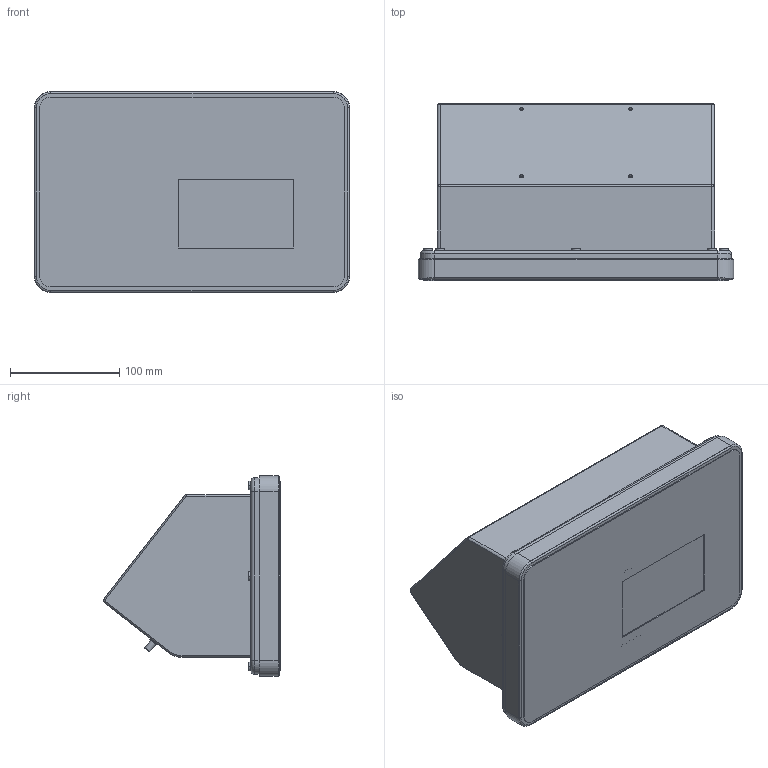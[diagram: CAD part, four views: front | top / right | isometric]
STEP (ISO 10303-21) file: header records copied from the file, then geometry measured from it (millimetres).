
FILE_DESCRIPTION((''),'2;1');
FILE_NAME('ASM000','2023-01-16T16:37:30',('zhang-250'),(''),'CREO PARAMETRIC BY PTC INC, 2022014','CREO PARAMETRIC BY PTC INC, 2022014','');
FILE_SCHEMA(('CONFIG_CONTROL_DESIGN'));
Length unit declared in the file: millimetre
Products named in the file (1): ASM000
Bounding box: 289 x 162.07 x 184 mm (x, y, z)
Volume: 5128487.8 mm3; surface area: 374991.5 mm2
Topology: 2 solids, 33 shells, 534 faces, 1302 edges, 854 vertices
Faces by surface type: plane 273, cylinder 233, torus 22, sphere 4, extrusion 2
Entity records: 15913 total; most frequent: DIRECTION 2870, CARTESIAN_POINT 2813, ORIENTED_EDGE 2572, EDGE_CURVE 1298, AXIS2_PLACEMENT_3D 1053, VERTEX_POINT 854, VECTOR 764, LINE 762
